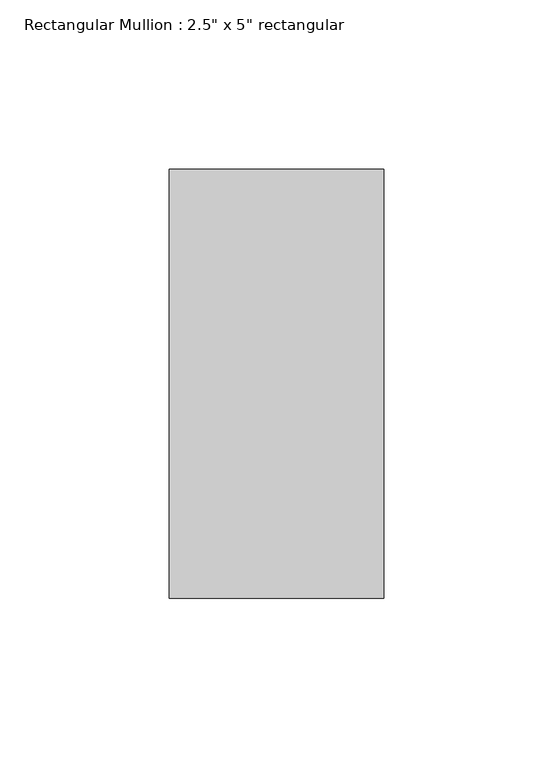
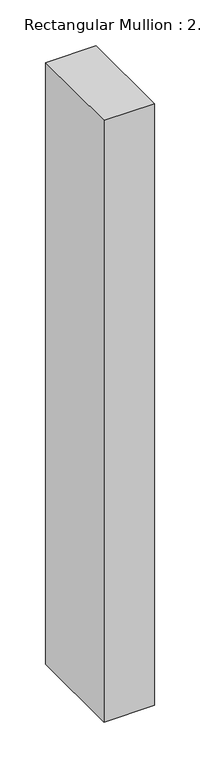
"""IFC4 building model written with IfcOpenShell, lengths in millimetres: member geometry."""

from ifc_helpers import new_model, si_unit, frame, origin, place, context, project, spatial, polyline, outline, extrude, source, transform, mapped, element, save


def member_bf847fdd(model_context):
    return source(origin(), model_context, "Body", "SweptSolid", [
        extrude(outline(polyline([(31.75, 63.5), (31.75, -63.5), (-31.75, -63.5), (-31.75, 63.5), (31.75, 63.5)])), frame((0.0, 0.0, -800.4744128), z_axis=(0.0, 0.0, 1.0), x_axis=(1.0, 0.0, 0.0)), (0.0, 0.0, 1.0), 800.4744128),
    ])


if __name__ == "__main__":
    model = new_model("IFC4")
    model_context = context("Model", 3, world=origin())
    ifc_project = project(units=[si_unit("LENGTHUNIT", "METRE", prefix="MILLI")], contexts=[model_context])
    site = spatial("IfcSite", under=ifc_project)
    building = spatial("IfcBuilding", under=site)
    placement = place(None, origin())
    member_shape = member_bf847fdd(model_context)
    element("IfcMember", 1, ObjectType="Rectangular Mullion : 2.5\" x 5\" rectangular", at=placement, inside=building, context=model_context, shape_type="MappedRepresentation", body=[
        mapped(member_shape, transform((0.0, 0.0, 0.0), x_axis=(1.0, 0.0, 0.0), y_axis=(0.0, 1.0, 0.0), z_axis=(0.0, 0.0, 1.0))),
    ])
    save(model, "model.ifc")
